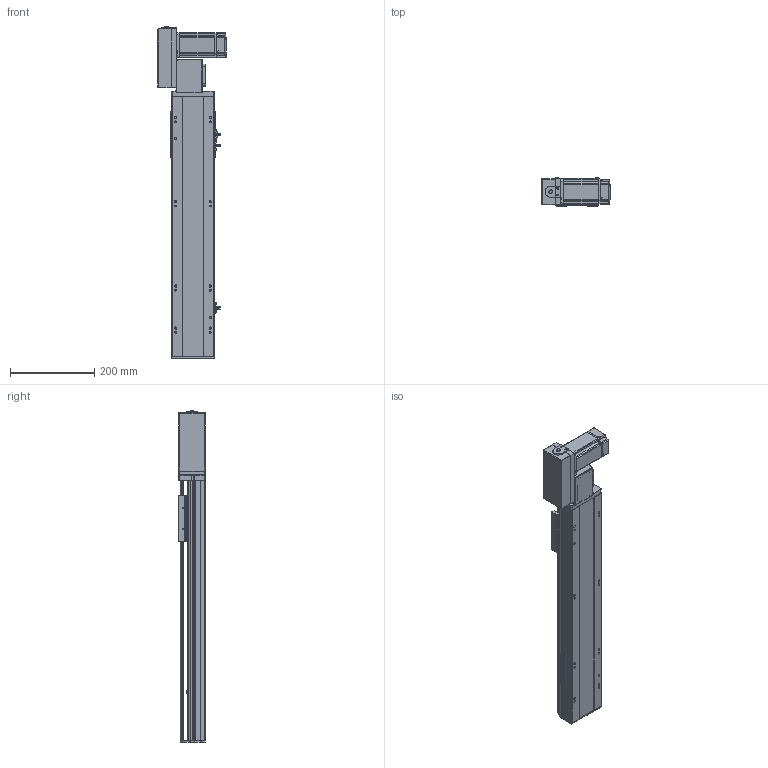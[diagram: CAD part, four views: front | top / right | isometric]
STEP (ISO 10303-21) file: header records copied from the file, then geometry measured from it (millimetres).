
FILE_DESCRIPTION (( 'STEP AP214' ), '1' );
FILE_NAME ('TPT10-L41.6-400-L-T20-C4.STEP', '2023-03-02T06:22:21', ( '' ), ( '' ), 'SwSTEP 2.0', 'SolidWorks 2020', '' );
FILE_SCHEMA (( 'AUTOMOTIVE_DESIGN' ));
Length unit declared in the file: millimetre
Products named in the file (11): TPT10-L41.6-400-L-T20-C4; hexagon head bolts-full thread gb_GB_FASTENER_BOLT_STBAB A M5X16-N; 葩璃 TPT10-L-009 萇儂啣^TPT10-L41.6-L-T20-C4_200W; 葩璃 TPT10-L-001 菁釱MZ-102A-01^TPT10-L41.6-L-T20-C4; 葩璃 侂狟400W^TPT10-L41.6-L-T20-C4; 葩璃 TPT10-L-002 奻裔MZ-102A-02^TPT10-L41.6-L-T20-C4; hexagon socket head cap screws gb_GB_FASTENER_SCREWS_HSHCS M3X6-N; 葩璃 pm-t65-672^TPT10-L41.6-L-T20-C4; hex nuts, style 1-grades ab gb_GB_FASTENER_NUT_SNAB1 M3-N; 葩璃 TPT10-L-007 々湍釱MZ-169x88^TPT10-L41.6-L-T20-C4_L; 葩璃 TPT10-L-005 賑釱MZ-102A-03^TPT10-L41.6-L-T20-C4
Assembly tree (22 placements, depth 2):
  TPT10-L41.6-400-L-T20-C4
    葩璃 TPT10-L-001 菁釱MZ-102A-01^TPT10-L41.6-L-T20-C4
    葩璃 TPT10-L-002 奻裔MZ-102A-02^TPT10-L41.6-L-T20-C4
    葩璃 TPT10-L-007 々湍釱MZ-169x88^TPT10-L41.6-L-T20-C4_L
    葩璃 TPT10-L-005 賑釱MZ-102A-03^TPT10-L41.6-L-T20-C4
    葩璃 TPT10-L-009 萇儂啣^TPT10-L41.6-L-T20-C4_200W
    葩璃 pm-t65-672^TPT10-L41.6-L-T20-C4  x3
    葩璃 侂狟400W^TPT10-L41.6-L-T20-C4
    hexagon head bolts-full thread gb_GB_FASTENER_BOLT_STBAB A M5X16-N
    hexagon socket head cap screws gb_GB_FASTENER_SCREWS_HSHCS M3X6-N  x6
    hex nuts, style 1-grades ab gb_GB_FASTENER_NUT_SNAB1 M3-N  x6
Bounding box: 162.5 x 66 x 788.65 mm (x, y, z)
Volume: 2672821.1 mm3; surface area: 568157.6 mm2
Topology: 30 solids, 30 shells, 1638 faces, 4265 edges, 2718 vertices
Faces by surface type: plane 934, cylinder 488, cone 178, bspline 26, torus 12
Entity records: 39291 total; most frequent: CARTESIAN_POINT 7636, DIRECTION 6370, ORIENTED_EDGE 6166, EDGE_CURVE 3083, AXIS2_PLACEMENT_3D 2203, VERTEX_POINT 2009, LINE 1964, VECTOR 1964
